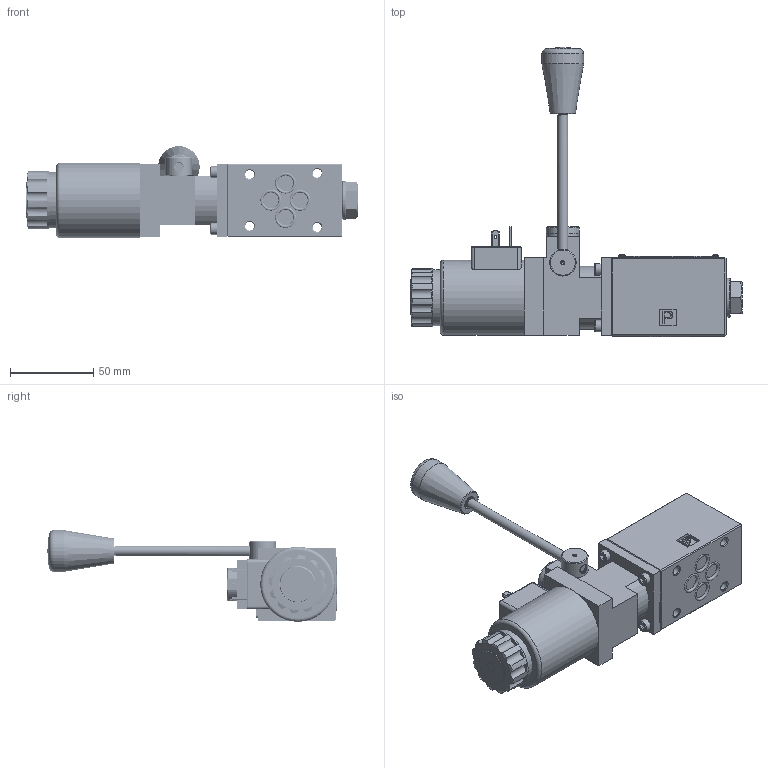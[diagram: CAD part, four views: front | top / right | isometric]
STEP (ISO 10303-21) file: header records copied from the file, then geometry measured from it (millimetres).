
FILE_DESCRIPTION(/* description */ (''),/* implementation_level */ '2;1');
FILE_NAME(/* name */ '4WEMM6-6XJ电磁手动换向阀（二位阀过渡盖在A端）.prt.stp',/* time_stamp */ '2022-03-30T19:40:32+08:00',/* author */ (''),/* organization */ (''),/* preprocessor_version */ 'ST-DEVELOPER v16.7',/* originating_system */ 'SIEMENS PLM Software NX 12.0',/* authorisation */ '');
FILE_SCHEMA (('AUTOMOTIVE_DESIGN { 1 0 10303 214 3 1 1 1 }'));
Products named in the file (1): 4WEMM6-6XJ电磁手动换向阀（二位阀过渡盖在A
端）
Bounding box: 199.2 x 173.62 x 55 mm (x, y, z)
Volume: 347298.6 mm3; surface area: 93103.7 mm2
Topology: 54 solids, 60 shells, 1386 faces, 3536 edges, 2311 vertices
Faces by surface type: plane 830, cylinder 347, cone 68, torus 50, bspline 44, extrusion 41, sphere 6
Full cylindrical faces by diameter (mm): 1.65 x3, 1.8 x4, 2 x11, 2.2 x2, 2.5 x2, 3 x1, 3.2 x4, 4 x65, 4.6 x4, 5 x1, 5.3 x4, 6 x30, 7 x4, 7.2 x1, 8 x2, 8.7 x1, 9 x1, 9.2 x2, 9.4 x4, 9.5 x2, 10.5 x1, 11 x6, 11.4 x2, 12 x8, 12.2 x2, 12.5 x1, 14 x1, 14.3 x1, 14.5 x1, 16 x1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
Entity records: 78802 total; most frequent: CARTESIAN_POINT 47973, ORIENTED_EDGE 5936, DIRECTION 5571, EDGE_CURVE 2968, VERTEX_POINT 2056, VECTOR 2037, LINE 1996, AXIS2_PLACEMENT_3D 1767
